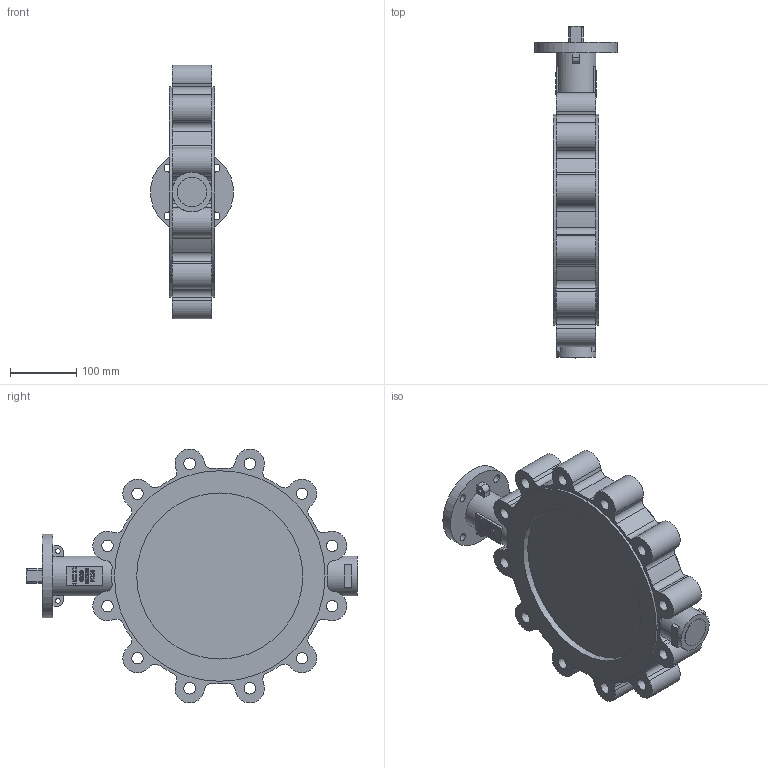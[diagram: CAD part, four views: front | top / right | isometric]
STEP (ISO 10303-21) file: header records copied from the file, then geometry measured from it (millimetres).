
FILE_DESCRIPTION(/* description */ (''),/* implementation_level */ '2;1');
FILE_NAME(/* name */ '6820-DN250-PN10-NBR - 13548569.stp',/* time_stamp */ '2024-09-05T07:37:04+02:00',/* author */ ('roger.thijssen'),/* organization */ (''),/* preprocessor_version */ 'ST-DEVELOPER v20',/* originating_system */ 'Autodesk Inventor 2024',/* authorisation */ '');
FILE_SCHEMA (('AUTOMOTIVE_DESIGN { 1 0 10303 214 3 1 1 }'));
Length unit declared in the file: millimetre
Products named in the file (1): 6820-DN250-PN10
Bounding box: 125 x 499.5 x 381.91 mm (x, y, z)
Volume: 6012271.2 mm3; surface area: 402796 mm2
Topology: 1 solids, 1 shells, 510 faces, 1382 edges, 915 vertices
Faces by surface type: plane 259, bspline 129, cylinder 117, cone 5
Full cylindrical faces by diameter (mm): 4.917 x1, 7 x2, 12 x4, 17.294 x12, 44 x1, 60 x2, 125 x1, 250 x2, 317 x2
Entity records: 17972 total; most frequent: CARTESIAN_POINT 5164, ORIENTED_EDGE 2762, DIRECTION 2111, EDGE_CURVE 1381, VERTEX_POINT 915, LINE 843, VECTOR 843, AXIS2_PLACEMENT_3D 634
